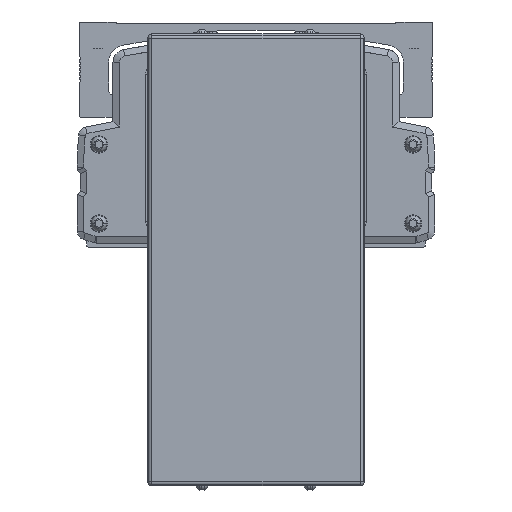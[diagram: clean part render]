
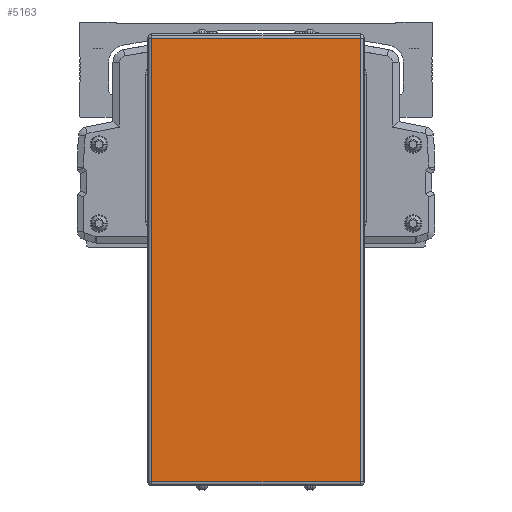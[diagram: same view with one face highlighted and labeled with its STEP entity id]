
A CAD part, front view. The second image highlights one B-rep face of the part: STEP entity #5163.
In plain terms, the highlighted planar face has unit normal (0, -1, 0).
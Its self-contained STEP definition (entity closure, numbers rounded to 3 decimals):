
#5163=ADVANCED_FACE('',(#11481),#11482,.T.);
#11481=FACE_OUTER_BOUND('',#20227,.T.);
#11482=PLANE('',#20228);
#20227=EDGE_LOOP('',(#36406,#36407,#36408,#36409));
#20228=AXIS2_PLACEMENT_3D('',#36410,#36411,#36412);
#36406=ORIENTED_EDGE('',*,*,#50555,.F.);
#36407=ORIENTED_EDGE('',*,*,#53098,.F.);
#36408=ORIENTED_EDGE('',*,*,#50897,.F.);
#36409=ORIENTED_EDGE('',*,*,#53099,.F.);
#36410=CARTESIAN_POINT('',(-600.,-522.778,-57.8));
#36411=DIRECTION('',(0.,-1.0,0.));
#36412=DIRECTION('',(0.,0.,-1.0));
#50555=EDGE_CURVE('',#61673,#61675,#61676,.T.);
#50897=EDGE_CURVE('',#58972,#62217,#62218,.T.);
#53098=EDGE_CURVE('',#62217,#61673,#65430,.T.);
#53099=EDGE_CURVE('',#61675,#58972,#65431,.T.);
#58972=VERTEX_POINT('',#73451);
#61673=VERTEX_POINT('',#77557);
#61675=VERTEX_POINT('',#77559);
#61676=LINE('',#77560,#77561);
#62217=VERTEX_POINT('',#78358);
#62218=LINE('',#78359,#78360);
#65430=LINE('',#83264,#83265);
#65431=LINE('',#83266,#83267);
#73451=CARTESIAN_POINT('',(-552.,-522.778,-160.1));
#77557=CARTESIAN_POINT('',(-648.,-522.778,44.5));
#77559=CARTESIAN_POINT('',(-552.,-522.778,44.5));
#77560=CARTESIAN_POINT('',(-600.,-522.778,44.5));
#77561=VECTOR('',#92388,10.0);
#78358=CARTESIAN_POINT('',(-648.,-522.778,-160.1));
#78359=CARTESIAN_POINT('',(-600.,-522.778,-160.1));
#78360=VECTOR('',#92871,10.0);
#83264=CARTESIAN_POINT('',(-648.,-522.778,-57.8));
#83265=VECTOR('',#95502,10.0);
#83266=CARTESIAN_POINT('',(-552.,-522.778,-57.8));
#83267=VECTOR('',#95503,10.0);
#92388=DIRECTION('',(1.0,0.,0.));
#92871=DIRECTION('',(-1.0,0.,0.));
#95502=DIRECTION('',(0.,0.,1.0));
#95503=DIRECTION('',(0.,0.,-1.0));
